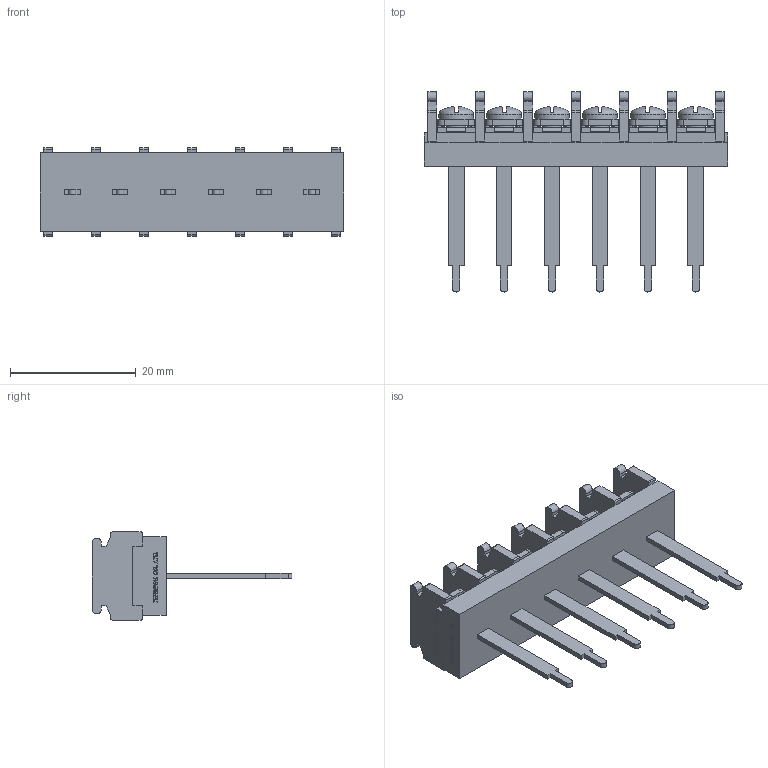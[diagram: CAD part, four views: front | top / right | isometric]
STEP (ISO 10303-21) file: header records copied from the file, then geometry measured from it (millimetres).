
FILE_DESCRIPTION(/* description */ ('Alibre Inc.'),/* implementation_level */ '2;1');
FILE_NAME(/* name */ 'export0',/* time_stamp */ '2015-10-26T16:06:22+09:00',/* author */ (''),/* organization */ (''),/* preprocessor_version */ 'ST-DEVELOPER v14',/* originating_system */ 'Alibre',/* authorisation */ '');
FILE_SCHEMA (('CONFIG_CONTROL_DESIGN'));
Length unit declared in the file: centimetre
Products named in the file (1): ID_1
Bounding box: 48.34 x 31.8 x 14 mm (x, y, z)
Volume: 4776.6 mm3; surface area: 5060.7 mm2
Topology: 1 solids, 1 shells, 1098 faces, 3008 edges, 1976 vertices
Faces by surface type: plane 850, bspline 104, cylinder 96, cone 24, torus 12, sphere 12
Full cylindrical faces by diameter (mm): 3 x6, 5.5 x6
Entity records: 33061 total; most frequent: CARTESIAN_POINT 7185, ORIENTED_EDGE 5944, DIRECTION 4040, EDGE_CURVE 2972, VECTOR 2200, LINE 2200, VERTEX_POINT 1964, AXIS2_PLACEMENT_3D 1317
